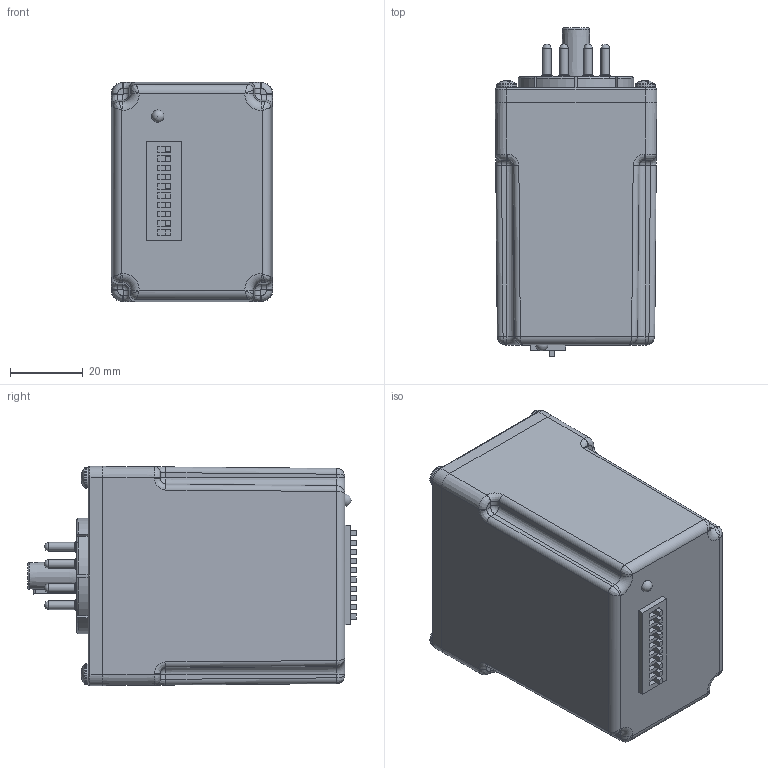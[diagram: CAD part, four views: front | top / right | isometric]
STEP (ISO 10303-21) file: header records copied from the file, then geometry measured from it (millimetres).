
FILE_DESCRIPTION(('FreeCAD Model'),'2;1');
FILE_NAME('Open CASCADE Shape Model','2023-06-06T13:37:57',(''),(''), 'Open CASCADE STEP processor 7.6','FreeCAD','Unknown');
FILE_SCHEMA(('AUTOMOTIVE_DESIGN { 1 0 10303 214 1 1 1 1 }'));
Products named in the file (1): Compound
Bounding box: 44.45 x 90.37 x 60.33 mm (x, y, z)
Surface area: 44483.8 mm2 (no closed solid volume)
Topology: 0 solids, 30 shells, 1963 faces, 4984 edges, 3101 vertices
Faces by surface type: plane 806, cylinder 682, bspline 200, torus 121, cone 57, sphere 57, revolution 40
Full cylindrical faces by diameter (mm): 0.254 x16, 1.257 x8, 1.714 x8, 1.905 x16, 2.362 x16, 2.464 x8, 3.175 x4, 4.191 x8, 7.925 x1
Entity records: 180475 total; most frequent: CARTESIAN_POINT 86132, DIRECTION 16184, ORIENTED_EDGE 9822, PCURVE 9822, DEFINITIONAL_REPRESENTATION 9822, LINE 9803, VECTOR 9803, EDGE_CURVE 4919
